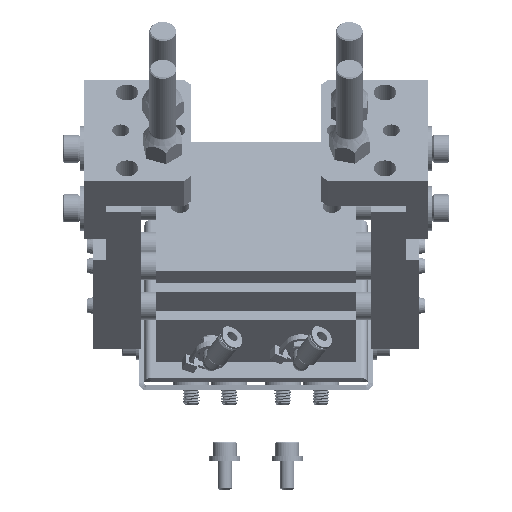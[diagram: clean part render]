
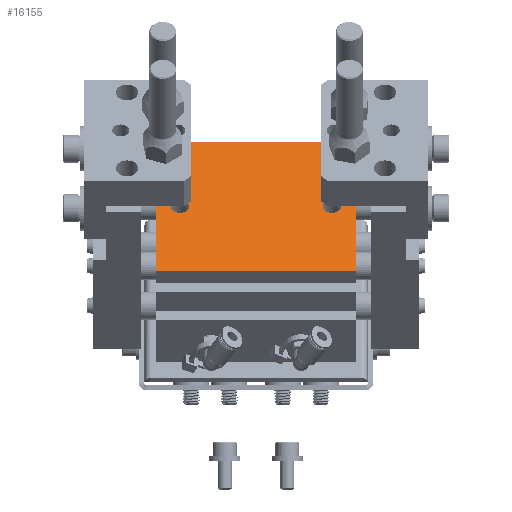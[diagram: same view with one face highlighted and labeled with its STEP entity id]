
A CAD part, left-side view. The second image highlights one B-rep face of the part: STEP entity #16155.
In plain terms, the highlighted planar face has unit normal (-0.707, 0, 0.707) as drawn and (0, -1, 0) by its records, which use the part's own axes.
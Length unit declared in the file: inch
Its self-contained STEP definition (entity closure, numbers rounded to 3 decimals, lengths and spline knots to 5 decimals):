
#1172 = CARTESIAN_POINT ( 'NONE',  ( 1.39764, -1.81102, 1.27953 ) ) ;
#1233 = CARTESIAN_POINT ( 'NONE',  ( -1.06299, -1.81102, 0.12992 ) ) ;
#1292 = CIRCLE ( 'NONE', #39406, 0.12992 ) ;
#1312 = DIRECTION ( 'NONE',  ( 0., 1., 0. ) ) ;
#1354 = AXIS2_PLACEMENT_3D ( 'NONE', #36823, #1312, #30567 ) ;
#1456 = CARTESIAN_POINT ( 'NONE',  ( -1.06299, -1.81102, 0. ) ) ;
#1493 = CARTESIAN_POINT ( 'NONE',  ( -1.39764, -1.81102, 1.27953 ) ) ;
#1661 = DIRECTION ( 'NONE',  ( 0., 0., 1. ) ) ;
#2498 = VECTOR ( 'NONE', #18590, 39.37008 ) ;
#2764 = DIRECTION ( 'NONE',  ( 0., 0., 1. ) ) ;
#3373 = EDGE_CURVE ( 'NONE', #7224, #27346, #16463, .T. ) ;
#3613 = CARTESIAN_POINT ( 'NONE',  ( 1.06299, -1.81102, 0. ) ) ;
#4203 = ORIENTED_EDGE ( 'NONE', *, *, #16364, .F. ) ;
#4285 = VERTEX_POINT ( 'NONE', #1233 ) ;
#5405 = AXIS2_PLACEMENT_3D ( 'NONE', #3613, #37411, #38011 ) ;
#7093 = EDGE_CURVE ( 'NONE', #13170, #22503, #23402, .T. ) ;
#7224 = VERTEX_POINT ( 'NONE', #22359 ) ;
#8001 = EDGE_CURVE ( 'NONE', #22503, #34517, #24858, .T. ) ;
#8818 = LINE ( 'NONE', #26847, #12407 ) ;
#9319 = EDGE_CURVE ( 'NONE', #26695, #4285, #1292, .T. ) ;
#9369 = DIRECTION ( 'NONE',  ( 0., 0., 1. ) ) ;
#10139 = CARTESIAN_POINT ( 'NONE',  ( 1.06299, -1.81102, -0.12992 ) ) ;
#11538 = ORIENTED_EDGE ( 'NONE', *, *, #8001, .F. ) ;
#12330 = ORIENTED_EDGE ( 'NONE', *, *, #3373, .T. ) ;
#12407 = VECTOR ( 'NONE', #2764, 39.37008 ) ;
#12427 = FACE_BOUND ( 'NONE', #24009, .T. ) ;
#12894 = VECTOR ( 'NONE', #24053, 39.37008 ) ;
#13111 = CARTESIAN_POINT ( 'NONE',  ( 1.39764, -1.81102, -1.27953 ) ) ;
#13170 = VERTEX_POINT ( 'NONE', #1493 ) ;
#14583 = ORIENTED_EDGE ( 'NONE', *, *, #7093, .F. ) ;
#14859 = CARTESIAN_POINT ( 'NONE',  ( -1.06299, -1.81102, -0.12992 ) ) ;
#14943 = CIRCLE ( 'NONE', #31711, 0.12992 ) ;
#16155 = ADVANCED_FACE ( 'NONE', ( #31423, #12427, #18903 ), #19295, .F. ) ;
#16364 = EDGE_CURVE ( 'NONE', #34517, #26848, #36399, .T. ) ;
#16463 = CIRCLE ( 'NONE', #5405, 0.12992 ) ;
#16764 = AXIS2_PLACEMENT_3D ( 'NONE', #31223, #24953, #9369 ) ;
#17005 = EDGE_LOOP ( 'NONE', ( #27949, #4203, #11538, #14583 ) ) ;
#17048 = DIRECTION ( 'NONE',  ( 0., 1., 0. ) ) ;
#18590 = DIRECTION ( 'NONE',  ( 0., 0., -1. ) ) ;
#18903 = FACE_OUTER_BOUND ( 'NONE', #17005, .T. ) ;
#19295 = PLANE ( 'NONE',  #16764 ) ;
#19805 = ORIENTED_EDGE ( 'NONE', *, *, #9319, .T. ) ;
#22359 = CARTESIAN_POINT ( 'NONE',  ( 1.06299, -1.81102, 0.12992 ) ) ;
#22503 = VERTEX_POINT ( 'NONE', #1172 ) ;
#22644 = EDGE_CURVE ( 'NONE', #26848, #13170, #8818, .T. ) ;
#22908 = VECTOR ( 'NONE', #26615, 39.37008 ) ;
#22937 = EDGE_LOOP ( 'NONE', ( #33162, #19805 ) ) ;
#23402 = LINE ( 'NONE', #35736, #22908 ) ;
#24009 = EDGE_LOOP ( 'NONE', ( #12330, #24885 ) ) ;
#24053 = DIRECTION ( 'NONE',  ( -1., 0., 0. ) ) ;
#24858 = LINE ( 'NONE', #39813, #2498 ) ;
#24885 = ORIENTED_EDGE ( 'NONE', *, *, #28874, .T. ) ;
#24901 = DIRECTION ( 'NONE',  ( 0., 0., 1. ) ) ;
#24953 = DIRECTION ( 'NONE',  ( 0., 1., 0. ) ) ;
#26615 = DIRECTION ( 'NONE',  ( 1., 0., 0. ) ) ;
#26695 = VERTEX_POINT ( 'NONE', #14859 ) ;
#26847 = CARTESIAN_POINT ( 'NONE',  ( -1.39764, -1.81102, -1.27953 ) ) ;
#26848 = VERTEX_POINT ( 'NONE', #30425 ) ;
#27346 = VERTEX_POINT ( 'NONE', #10139 ) ;
#27949 = ORIENTED_EDGE ( 'NONE', *, *, #22644, .F. ) ;
#28874 = EDGE_CURVE ( 'NONE', #27346, #7224, #30410, .T. ) ;
#28916 = EDGE_CURVE ( 'NONE', #4285, #26695, #14943, .T. ) ;
#30410 = CIRCLE ( 'NONE', #1354, 0.12992 ) ;
#30425 = CARTESIAN_POINT ( 'NONE',  ( -1.39764, -1.81102, -1.27953 ) ) ;
#30530 = CARTESIAN_POINT ( 'NONE',  ( -1.39764, -1.81102, -1.27953 ) ) ;
#30567 = DIRECTION ( 'NONE',  ( 0., 0., 1. ) ) ;
#31223 = CARTESIAN_POINT ( 'NONE',  ( 0., -1.81102, 0. ) ) ;
#31367 = CARTESIAN_POINT ( 'NONE',  ( -1.06299, -1.81102, 0. ) ) ;
#31423 = FACE_BOUND ( 'NONE', #22937, .T. ) ;
#31711 = AXIS2_PLACEMENT_3D ( 'NONE', #31367, #37835, #24901 ) ;
#33162 = ORIENTED_EDGE ( 'NONE', *, *, #28916, .T. ) ;
#34517 = VERTEX_POINT ( 'NONE', #13111 ) ;
#35736 = CARTESIAN_POINT ( 'NONE',  ( -1.39764, -1.81102, 1.27953 ) ) ;
#36399 = LINE ( 'NONE', #30530, #12894 ) ;
#36823 = CARTESIAN_POINT ( 'NONE',  ( 1.06299, -1.81102, 0. ) ) ;
#37411 = DIRECTION ( 'NONE',  ( 0., 1., 0. ) ) ;
#37835 = DIRECTION ( 'NONE',  ( 0., 1., 0. ) ) ;
#38011 = DIRECTION ( 'NONE',  ( 0., 0., 1. ) ) ;
#39406 = AXIS2_PLACEMENT_3D ( 'NONE', #1456, #17048, #1661 ) ;
#39813 = CARTESIAN_POINT ( 'NONE',  ( 1.39764, -1.81102, -1.27953 ) ) ;
